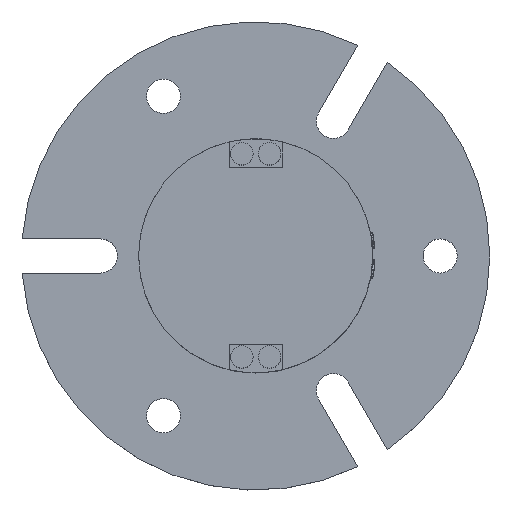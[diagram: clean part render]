
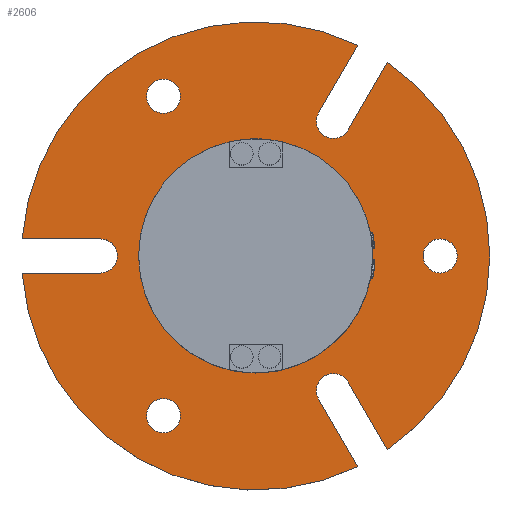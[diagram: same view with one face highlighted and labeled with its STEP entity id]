
A CAD part, top view. The second image highlights one B-rep face of the part: STEP entity #2606.
In plain terms, the highlighted planar face has unit normal (0, 0, 1).
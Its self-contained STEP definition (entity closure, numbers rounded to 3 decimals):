
#2606=ADVANCED_FACE('',(#3988,#3989,#3990,#3991,#3992),#3184,.T.);
#3184=PLANE('',#10582);
#3393=LINE('',#12287,#3535);
#3394=LINE('',#12291,#3536);
#3395=LINE('',#12295,#3537);
#3396=LINE('',#12299,#3538);
#3397=LINE('',#12303,#3539);
#3398=LINE('',#12307,#3540);
#3535=VECTOR('',#10996,1.);
#3536=VECTOR('',#10999,1.);
#3537=VECTOR('',#11002,1.);
#3538=VECTOR('',#11005,1.);
#3539=VECTOR('',#11008,1.);
#3540=VECTOR('',#11011,1.);
#3988=FACE_BOUND('',#4088,.T.);
#3989=FACE_BOUND('',#4089,.T.);
#3990=FACE_BOUND('',#4090,.T.);
#3991=FACE_BOUND('',#4091,.T.);
#3992=FACE_BOUND('',#4092,.T.);
#4088=EDGE_LOOP('',(#4736));
#4089=EDGE_LOOP('',(#4737,#4738,#4739,#4740,#4741,#4742,#4743,#4744,#4745,
#4746,#4747,#4748));
#4090=EDGE_LOOP('',(#4749));
#4091=EDGE_LOOP('',(#4750));
#4092=EDGE_LOOP('',(#4751));
#4736=ORIENTED_EDGE('',*,*,#8919,.T.);
#4737=ORIENTED_EDGE('',*,*,#8920,.F.);
#4738=ORIENTED_EDGE('',*,*,#8921,.T.);
#4739=ORIENTED_EDGE('',*,*,#8922,.T.);
#4740=ORIENTED_EDGE('',*,*,#8923,.T.);
#4741=ORIENTED_EDGE('',*,*,#8924,.F.);
#4742=ORIENTED_EDGE('',*,*,#8925,.T.);
#4743=ORIENTED_EDGE('',*,*,#8926,.T.);
#4744=ORIENTED_EDGE('',*,*,#8927,.T.);
#4745=ORIENTED_EDGE('',*,*,#8928,.F.);
#4746=ORIENTED_EDGE('',*,*,#8929,.T.);
#4747=ORIENTED_EDGE('',*,*,#8930,.T.);
#4748=ORIENTED_EDGE('',*,*,#8931,.T.);
#4749=ORIENTED_EDGE('',*,*,#8932,.F.);
#4750=ORIENTED_EDGE('',*,*,#8933,.T.);
#4751=ORIENTED_EDGE('',*,*,#8934,.T.);
#7866=VERTEX_POINT('',#12283);
#7867=VERTEX_POINT('',#12285);
#7868=VERTEX_POINT('',#12286);
#7869=VERTEX_POINT('',#12288);
#7870=VERTEX_POINT('',#12290);
#7871=VERTEX_POINT('',#12292);
#7872=VERTEX_POINT('',#12294);
#7873=VERTEX_POINT('',#12296);
#7874=VERTEX_POINT('',#12298);
#7875=VERTEX_POINT('',#12300);
#7876=VERTEX_POINT('',#12302);
#7877=VERTEX_POINT('',#12304);
#7878=VERTEX_POINT('',#12306);
#7879=VERTEX_POINT('',#12309);
#7880=VERTEX_POINT('',#12311);
#7881=VERTEX_POINT('',#12313);
#8919=EDGE_CURVE('',#7866,#7866,#10484,.T.);
#8920=EDGE_CURVE('',#7867,#7868,#10485,.T.);
#8921=EDGE_CURVE('',#7867,#7869,#3393,.T.);
#8922=EDGE_CURVE('',#7869,#7870,#10486,.T.);
#8923=EDGE_CURVE('',#7870,#7871,#3394,.T.);
#8924=EDGE_CURVE('',#7872,#7871,#10487,.T.);
#8925=EDGE_CURVE('',#7872,#7873,#3395,.T.);
#8926=EDGE_CURVE('',#7873,#7874,#10488,.T.);
#8927=EDGE_CURVE('',#7874,#7875,#3396,.T.);
#8928=EDGE_CURVE('',#7876,#7875,#10489,.T.);
#8929=EDGE_CURVE('',#7876,#7877,#3397,.T.);
#8930=EDGE_CURVE('',#7877,#7878,#10490,.T.);
#8931=EDGE_CURVE('',#7878,#7868,#3398,.T.);
#8932=EDGE_CURVE('',#7879,#7879,#10491,.T.);
#8933=EDGE_CURVE('',#7880,#7880,#10492,.T.);
#8934=EDGE_CURVE('',#7881,#7881,#10493,.T.);
#10484=CIRCLE('',#10572,1.6);
#10485=CIRCLE('',#10573,22.);
#10486=CIRCLE('',#10574,1.6);
#10487=CIRCLE('',#10575,22.);
#10488=CIRCLE('',#10576,1.6);
#10489=CIRCLE('',#10577,22.);
#10490=CIRCLE('',#10578,1.6);
#10491=CIRCLE('',#10579,11.);
#10492=CIRCLE('',#10580,1.6);
#10493=CIRCLE('',#10581,1.6);
#10572=AXIS2_PLACEMENT_3D('',#12282,#10992,#10993);
#10573=AXIS2_PLACEMENT_3D('',#12284,#10994,#10995);
#10574=AXIS2_PLACEMENT_3D('',#12289,#10997,#10998);
#10575=AXIS2_PLACEMENT_3D('',#12293,#11000,#11001);
#10576=AXIS2_PLACEMENT_3D('',#12297,#11003,#11004);
#10577=AXIS2_PLACEMENT_3D('',#12301,#11006,#11007);
#10578=AXIS2_PLACEMENT_3D('',#12305,#11009,#11010);
#10579=AXIS2_PLACEMENT_3D('',#12308,#11012,#11013);
#10580=AXIS2_PLACEMENT_3D('',#12310,#11014,#11015);
#10581=AXIS2_PLACEMENT_3D('',#12312,#11016,#11017);
#10582=AXIS2_PLACEMENT_3D('',#12314,#11018,#11019);
#10992=DIRECTION('',(0.,0.,-1.));
#10993=DIRECTION('',(1.,0.,0.));
#10994=DIRECTION('',(0.,0.,-1.));
#10995=DIRECTION('',(1.,0.,0.));
#10996=DIRECTION('',(1.,0.,0.));
#10997=DIRECTION('',(0.,0.,-1.));
#10998=DIRECTION('',(1.,0.,0.));
#10999=DIRECTION('',(-1.,0.,0.));
#11000=DIRECTION('',(0.,0.,-1.));
#11001=DIRECTION('',(1.,0.,0.));
#11002=DIRECTION('',(-0.5,0.866,0.));
#11003=DIRECTION('',(0.,0.,-1.));
#11004=DIRECTION('',(-0.5,0.866,0.));
#11005=DIRECTION('',(0.5,-0.866,0.));
#11006=DIRECTION('',(0.,0.,-1.));
#11007=DIRECTION('',(1.,0.,0.));
#11008=DIRECTION('',(-0.5,-0.866,0.));
#11009=DIRECTION('',(0.,0.,-1.));
#11010=DIRECTION('',(-0.5,-0.866,0.));
#11011=DIRECTION('',(0.5,0.866,0.));
#11012=DIRECTION('',(0.,0.,1.));
#11013=DIRECTION('',(1.,0.,0.));
#11014=DIRECTION('',(0.,0.,-1.));
#11015=DIRECTION('',(-0.5,0.866,0.));
#11016=DIRECTION('',(0.,0.,-1.));
#11017=DIRECTION('',(-0.5,-0.866,0.));
#11018=DIRECTION('',(0.,0.,1.));
#11019=DIRECTION('',(1.,0.,0.));
#12282=CARTESIAN_POINT('',(17.33,0.,2.5));
#12283=CARTESIAN_POINT('',(18.93,0.,2.5));
#12284=CARTESIAN_POINT('',(0.,0.,2.5));
#12285=CARTESIAN_POINT('',(-21.942,1.6,2.5));
#12286=CARTESIAN_POINT('',(9.585,19.802,2.5));
#12287=CARTESIAN_POINT('',(-23.1,1.6,2.5));
#12288=CARTESIAN_POINT('',(-14.6,1.6,2.5));
#12289=CARTESIAN_POINT('',(-14.6,0.,2.5));
#12290=CARTESIAN_POINT('',(-14.6,-1.6,2.5));
#12291=CARTESIAN_POINT('',(-23.1,-1.6,2.5));
#12292=CARTESIAN_POINT('',(-21.942,-1.6,2.5));
#12293=CARTESIAN_POINT('',(0.,0.,2.5));
#12294=CARTESIAN_POINT('',(9.585,-19.802,2.5));
#12295=CARTESIAN_POINT('',(10.164,-20.805,2.5));
#12296=CARTESIAN_POINT('',(5.914,-13.444,2.5));
#12297=CARTESIAN_POINT('',(7.3,-12.644,2.5));
#12298=CARTESIAN_POINT('',(8.686,-11.844,2.5));
#12299=CARTESIAN_POINT('',(12.936,-19.205,2.5));
#12300=CARTESIAN_POINT('',(12.357,-18.202,2.5));
#12301=CARTESIAN_POINT('',(0.,0.,2.5));
#12302=CARTESIAN_POINT('',(12.357,18.202,2.5));
#12303=CARTESIAN_POINT('',(12.936,19.205,2.5));
#12304=CARTESIAN_POINT('',(8.686,11.844,2.5));
#12305=CARTESIAN_POINT('',(7.3,12.644,2.5));
#12306=CARTESIAN_POINT('',(5.914,13.444,2.5));
#12307=CARTESIAN_POINT('',(10.164,20.805,2.5));
#12308=CARTESIAN_POINT('',(0.,0.,2.5));
#12309=CARTESIAN_POINT('',(11.,0.,2.5));
#12310=CARTESIAN_POINT('',(-8.665,15.008,2.5));
#12311=CARTESIAN_POINT('',(-9.465,16.394,2.5));
#12312=CARTESIAN_POINT('',(-8.665,-15.008,2.5));
#12313=CARTESIAN_POINT('',(-9.465,-16.394,2.5));
#12314=CARTESIAN_POINT('',(0.,0.,2.5));
